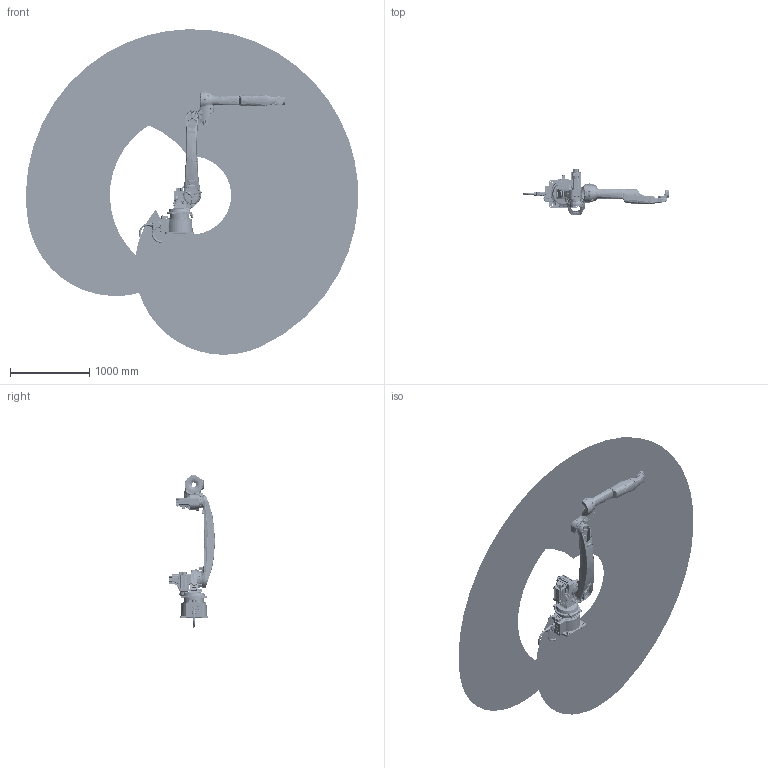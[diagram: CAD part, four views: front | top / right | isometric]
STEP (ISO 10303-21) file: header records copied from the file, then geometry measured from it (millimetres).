
FILE_DESCRIPTION (( 'STEP AP203' ), '1' );
FILE_NAME ('NB25h-1222 ¼ò»¯Ä£ÐÍSW2012(20250820).stp', '2025-08-23T09:33:03', ( '' ), ( '' ), 'SwSTEP 2.0', 'SolidWorks 2012', '' );
FILE_SCHEMA (( 'CONFIG_CONTROL_DESIGN' ));
Products named in the file (11): NB25h-3Dwork; NB25h-1222 潠趙耀倰SW2012(20250820); NB25h-yao-B; NB25h-logo; NB25h-xiaobiqian-B_MODEL; NB25h-xiaobihou-B; NB25h-shuchu-B; NB25h-shouwan-B; NB25h-dabi-B; NB25h-base-A
Assembly tree (10 placements, depth 3):
  NB25h-1222 潠趙耀倰SW2012(20250820)
    NB25h-base-A
    NB25h-dabi-B
    NB25h-shouwan-B
    NB25h-shuchu-B
    NB25h-xiaobihou-B
    NB25h-xiaobiqian-B_MODEL
      NB25h-xiaobiqian-B_MODEL
      NB25h-logo
    NB25h-yao-B
    NB25h-3Dwork
Bounding box: 4192.11 x 578.9 x 4111.35 mm (x, y, z)
Volume: 75105609.9 mm3; surface area: 27061308.6 mm2
Topology: 17 solids, 82 shells, 13548 faces, 34747 edges, 21487 vertices
Faces by surface type: plane 5046, cylinder 4556, bspline 1818, cone 1037, torus 670, sphere 421
Entity records: 710623 total; most frequent: CARTESIAN_POINT 395154, ORIENTED_EDGE 68224, DIRECTION 63351, EDGE_CURVE 34112, AXIS2_PLACEMENT_3D 24160, VERTEX_POINT 21471, LINE 15031, VECTOR 15031
